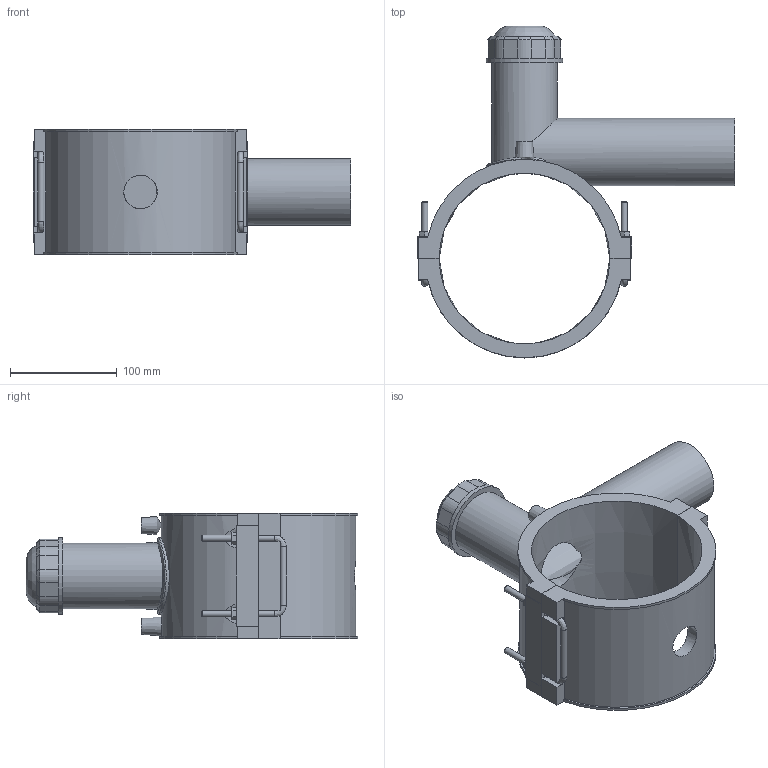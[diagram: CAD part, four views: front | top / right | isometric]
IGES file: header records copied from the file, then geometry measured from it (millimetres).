
Global section: file name: 496304160063.ipt; native system: Autodesk Inventor 2015; preprocessor: unknown; author: KIM; date: 20190124.131044; units: millimetre
Bounding box: 297.5 x 311.02 x 118 mm (x, y, z)
Volume: 1150285.9 mm3; surface area: 267024 mm2
Topology: 1 solids, 2 shells, 186 faces, 481 edges, 312 vertices
Faces by surface type: plane 113, cylinder 32, revolution 21, cone 15, bspline 5
Full cylindrical faces by diameter (mm): 4 x2, 6 x10, 61.2 x1, 63 x1, 72 x1
